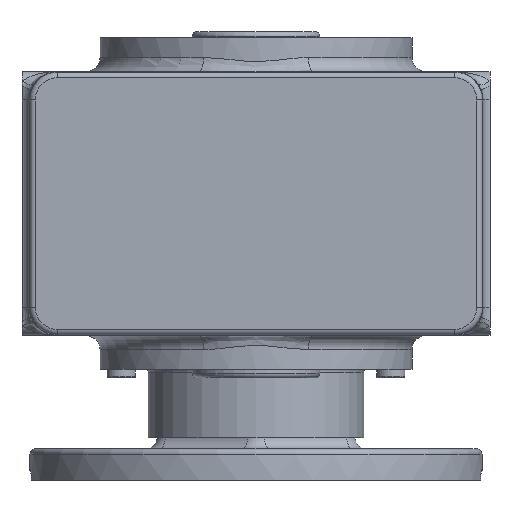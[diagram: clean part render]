
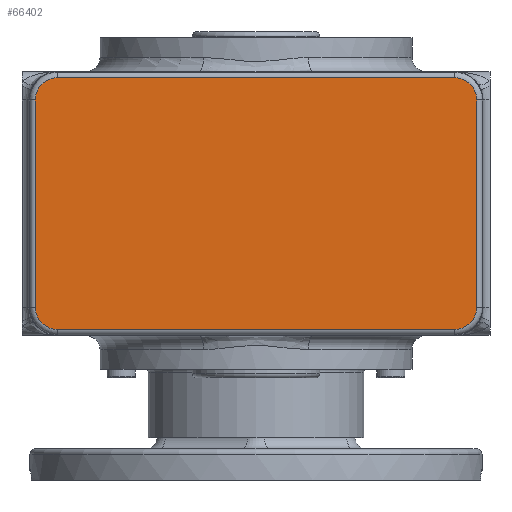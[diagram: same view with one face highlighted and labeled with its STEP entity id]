
A CAD part, front view. The second image highlights one B-rep face of the part: STEP entity #66402.
In plain terms, the highlighted planar face has unit normal (0, -1, 0).
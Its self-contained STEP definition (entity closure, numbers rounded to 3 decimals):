
#73 = CIRCLE ( 'NONE', #128, 7.86 ) ;
#76 = CARTESIAN_POINT ( 'NONE',  ( -77.86, -74.5, 83. ) ) ;
#111 = CARTESIAN_POINT ( 'NONE',  ( -70., -74.5, 90.86 ) ) ;
#112 = DIRECTION ( 'NONE',  ( -1., 0., 0. ) ) ;
#113 = VECTOR ( 'NONE', #112, 1000. ) ;
#114 = CARTESIAN_POINT ( 'NONE',  ( -70., -74.5, 90.86 ) ) ;
#115 = LINE ( 'NONE', #114, #113 ) ;
#125 = DIRECTION ( 'NONE',  ( 0., 0., -1. ) ) ;
#126 = DIRECTION ( 'NONE',  ( 0., -1., 0. ) ) ;
#127 = CARTESIAN_POINT ( 'NONE',  ( -70., -74.5, 83. ) ) ;
#128 = AXIS2_PLACEMENT_3D ( 'NONE', #127, #126, #125 ) ;
#159 = DIRECTION ( 'NONE',  ( 0., 0., -1. ) ) ;
#160 = VECTOR ( 'NONE', #159, 1000. ) ;
#161 = CARTESIAN_POINT ( 'NONE',  ( -77.86, -74.5, 10. ) ) ;
#162 = LINE ( 'NONE', #161, #160 ) ;
#12353 = EDGE_CURVE ( 'NONE', #66330, #62603, #13808, .T. ) ;
#12407 = EDGE_CURVE ( 'NONE', #66325, #66330, #13797, .T. ) ;
#12472 = ORIENTED_EDGE ( 'NONE', *, *, #12353, .T. ) ;
#13794 = DIRECTION ( 'NONE',  ( 1., 0., 0. ) ) ;
#13795 = VECTOR ( 'NONE', #13794, 1000. ) ;
#13796 = CARTESIAN_POINT ( 'NONE',  ( 70., -74.5, 2.14 ) ) ;
#13797 = LINE ( 'NONE', #13796, #13795 ) ;
#13804 = DIRECTION ( 'NONE',  ( 0., 0., -1. ) ) ;
#13805 = DIRECTION ( 'NONE',  ( 0., -1., 0. ) ) ;
#13806 = CARTESIAN_POINT ( 'NONE',  ( 70., -74.5, 10. ) ) ;
#13807 = AXIS2_PLACEMENT_3D ( 'NONE', #13806, #13805, #13804 ) ;
#13808 = CIRCLE ( 'NONE', #13807, 7.86 ) ;
#34947 = CARTESIAN_POINT ( 'NONE',  ( 77.86, -74.5, 10. ) ) ;
#34964 = CARTESIAN_POINT ( 'NONE',  ( 70., -74.5, 2.14 ) ) ;
#34965 = CARTESIAN_POINT ( 'NONE',  ( -70., -74.5, 2.14 ) ) ;
#34966 = DIRECTION ( 'NONE',  ( 0., 0., -1. ) ) ;
#34967 = DIRECTION ( 'NONE',  ( 0., -1., 0. ) ) ;
#34969 = DIRECTION ( 'NONE',  ( 0., 0., 1. ) ) ;
#34970 = VECTOR ( 'NONE', #34969, 1000. ) ;
#34971 = CARTESIAN_POINT ( 'NONE',  ( 77.86, -74.5, 83. ) ) ;
#34972 = LINE ( 'NONE', #34971, #34970 ) ;
#34982 = DIRECTION ( 'NONE',  ( 0., 0., -1. ) ) ;
#34983 = DIRECTION ( 'NONE',  ( 0., -1., 0. ) ) ;
#34984 = CARTESIAN_POINT ( 'NONE',  ( 70., -74.5, 10. ) ) ;
#34985 = AXIS2_PLACEMENT_3D ( 'NONE', #34984, #34983, #34982 ) ;
#34986 = FACE_OUTER_BOUND ( 'NONE', #66423, .T. ) ;
#34991 = PLANE ( 'NONE',  #34985 ) ;
#34994 = CARTESIAN_POINT ( 'NONE',  ( -70., -74.5, 10. ) ) ;
#34995 = AXIS2_PLACEMENT_3D ( 'NONE', #34994, #34967, #34966 ) ;
#34996 = CIRCLE ( 'NONE', #34995, 7.86 ) ;
#37065 = CARTESIAN_POINT ( 'NONE',  ( 70., -74.5, 90.86 ) ) ;
#37066 = DIRECTION ( 'NONE',  ( 0., 0., -1. ) ) ;
#37067 = DIRECTION ( 'NONE',  ( 0., -1., 0. ) ) ;
#37068 = CARTESIAN_POINT ( 'NONE',  ( 70., -74.5, 83. ) ) ;
#37069 = AXIS2_PLACEMENT_3D ( 'NONE', #37068, #37067, #37066 ) ;
#37070 = CIRCLE ( 'NONE', #37069, 7.86 ) ;
#37080 = CARTESIAN_POINT ( 'NONE',  ( 77.86, -74.5, 83. ) ) ;
#37156 = CARTESIAN_POINT ( 'NONE',  ( -77.86, -74.5, 10. ) ) ;
#62603 = VERTEX_POINT ( 'NONE', #34947 ) ;
#65957 = VERTEX_POINT ( 'NONE', #37080 ) ;
#65960 = ORIENTED_EDGE ( 'NONE', *, *, #65966, .T. ) ;
#65966 = EDGE_CURVE ( 'NONE', #65957, #65971, #37070, .T. ) ;
#65971 = VERTEX_POINT ( 'NONE', #37065 ) ;
#66285 = ORIENTED_EDGE ( 'NONE', *, *, #66286, .T. ) ;
#66286 = EDGE_CURVE ( 'NONE', #66965, #66325, #34996, .T. ) ;
#66325 = VERTEX_POINT ( 'NONE', #34965 ) ;
#66327 = ORIENTED_EDGE ( 'NONE', *, *, #12407, .T. ) ;
#66330 = VERTEX_POINT ( 'NONE', #34964 ) ;
#66402 = ADVANCED_FACE ( 'NONE', ( #34986 ), #34991, .T. ) ;
#66423 = EDGE_LOOP ( 'NONE', ( #66469, #65960, #98783, #98720, #93040, #66285, #66327, #12472 ) ) ;
#66469 = ORIENTED_EDGE ( 'NONE', *, *, #66482, .T. ) ;
#66482 = EDGE_CURVE ( 'NONE', #62603, #65957, #34972, .T. ) ;
#66965 = VERTEX_POINT ( 'NONE', #37156 ) ;
#93040 = ORIENTED_EDGE ( 'NONE', *, *, #103889, .T. ) ;
#94911 = VERTEX_POINT ( 'NONE', #76 ) ;
#97553 = EDGE_CURVE ( 'NONE', #98747, #94911, #73, .T. ) ;
#98687 = EDGE_CURVE ( 'NONE', #65971, #98747, #115, .T. ) ;
#98720 = ORIENTED_EDGE ( 'NONE', *, *, #97553, .T. ) ;
#98747 = VERTEX_POINT ( 'NONE', #111 ) ;
#98783 = ORIENTED_EDGE ( 'NONE', *, *, #98687, .T. ) ;
#103889 = EDGE_CURVE ( 'NONE', #94911, #66965, #162, .T. ) ;
